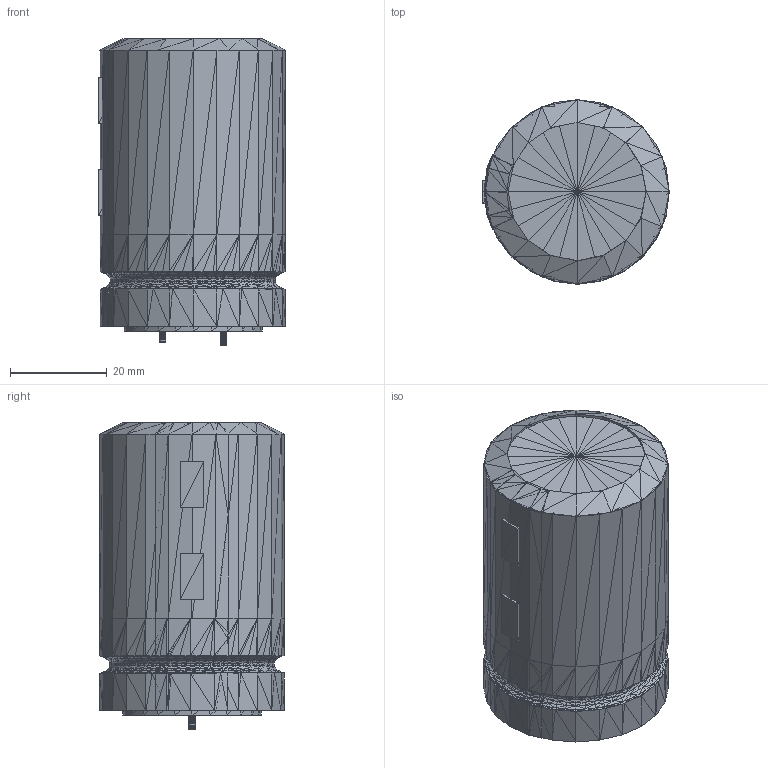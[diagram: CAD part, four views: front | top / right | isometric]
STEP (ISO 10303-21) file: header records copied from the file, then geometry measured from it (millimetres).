
FILE_DESCRIPTION(('HOOPS Exchange Step'),'2;1');
FILE_NAME('***.stp');
FILE_SCHEMA( ('AP242_MANAGED_MODEL_BASED_3D_ENGINEERING_MIM_LF {1 0 10303 442 1 1 4 }') );
Length unit declared in the file: inch
Products named in the file (12): RADPOLCAPXXLG_2; RADPOLCAPXXLG_3; RADPOLCAPXXLG_4; RADPOLCAPXXLG_5; RADPOLCAPXXLG_6; RADPOLCAPXXLG_7; RADPOLCAPXXLG_8; RADPOLCAPXXLG_9; RADPOLCAPXXLG_10; RADPOLCAPXXLG_11; RADPOLCAPXXLG_12; RADPOLCAPXXLG
Assembly tree (11 placements, depth 2):
  RADPOLCAPXXLG
    RADPOLCAPXXLG_2
    RADPOLCAPXXLG_3
    RADPOLCAPXXLG_4
    RADPOLCAPXXLG_5
    RADPOLCAPXXLG_6
    RADPOLCAPXXLG_7
    RADPOLCAPXXLG_8
    RADPOLCAPXXLG_9
    RADPOLCAPXXLG_10
    RADPOLCAPXXLG_11
    RADPOLCAPXXLG_12
Bounding box: 38.58 x 38.11 x 63.48 mm (x, y, z)
Volume: 67930.7 mm3; surface area: 18323 mm2
Topology: 10 solids, 12 shells, 2233 faces, 3360 edges, 1147 vertices
Faces by surface type: plane 2233
Entity records: 44183 total; most frequent: DIRECTION 7874, CARTESIAN_POINT 6764, ORIENTED_EDGE 6699, VECTOR 3360, LINE 3360, EDGE_CURVE 3360, AXIS2_PLACEMENT_3D 2257, PLANE 2233
